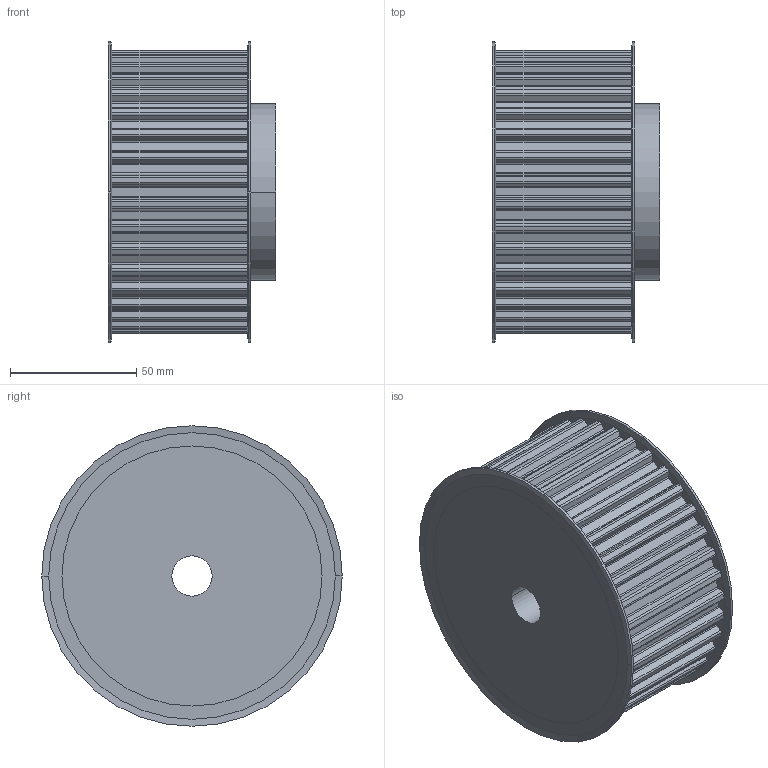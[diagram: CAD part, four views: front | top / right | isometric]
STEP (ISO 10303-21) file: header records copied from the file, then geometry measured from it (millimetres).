
FILE_DESCRIPTION( ( '' ), '1' );
FILE_NAME( 'C:/Users/Stangenbergd/Documents/CAD_Step/1/16453600.stp', '2021-10-19T09:01:49', ( '' ), ( '' ), ' ', ' ', ' ' );
FILE_SCHEMA( ( 'CONFIG_CONTROL_DESIGN' ) );
Length unit declared in the file: millimetre
Products named in the file (1): 1
Bounding box: 66.24 x 119 x 119 mm (x, y, z)
Volume: 548131.3 mm3; surface area: 58772 mm2
Topology: 1 solids, 1 shells, 315 faces, 916 edges, 608 vertices
Faces by surface type: cylinder 192, plane 115, cone 8
Entity records: 10606 total; most frequent: DIRECTION 1940, CARTESIAN_POINT 1840, ORIENTED_EDGE 1832, EDGE_CURVE 916, AXIS2_PLACEMENT_3D 708, VERTEX_POINT 608, LINE 524, VECTOR 524
